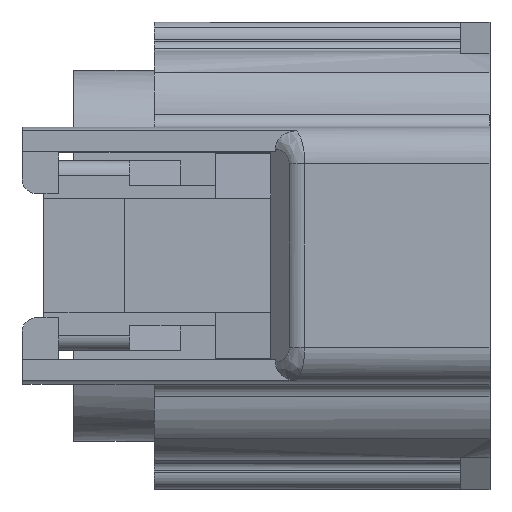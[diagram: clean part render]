
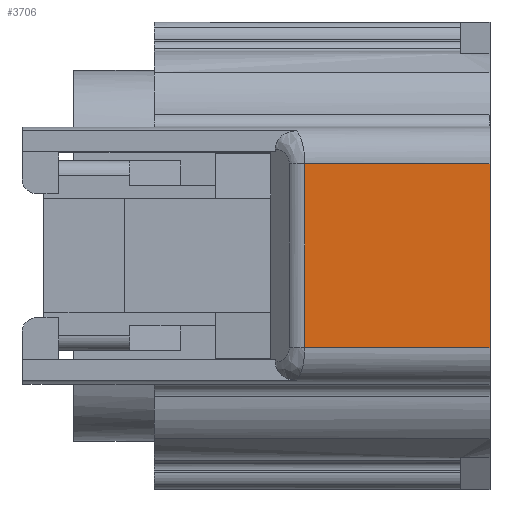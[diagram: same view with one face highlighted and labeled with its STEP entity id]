
A CAD part, top view. The second image highlights one B-rep face of the part: STEP entity #3706.
In plain terms, the highlighted planar face has unit normal (0, 0, 1).
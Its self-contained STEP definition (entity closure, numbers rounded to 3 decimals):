
#2983=CARTESIAN_POINT('Vertex',(1.8,-6.3,15.75)) ;
#2986=CARTESIAN_POINT('Line Origine',(-14.282,-6.3,15.75)) ;
#2990=CARTESIAN_POINT('Vertex',(-10.879,-6.3,15.75)) ;
#3676=CARTESIAN_POINT('Axis2P3D Location',(1.9,-7.56,15.75)) ;
#3681=CARTESIAN_POINT('Line Origine',(1.8,0.,15.75)) ;
#3685=CARTESIAN_POINT('Vertex',(1.8,6.3,15.75)) ;
#3688=CARTESIAN_POINT('Line Origine',(-4.539,6.3,15.75)) ;
#3692=CARTESIAN_POINT('Vertex',(-10.879,6.3,15.75)) ;
#3695=CARTESIAN_POINT('Line Origine',(-10.879,0.,15.75)) ;
#2987=DIRECTION('Vector Direction',(-1.,0.,0.)) ;
#3677=DIRECTION('Axis2P3D Direction',(0.,-0.,1.)) ;
#3678=DIRECTION('Axis2P3D XDirection',(0.,1.,0.)) ;
#3682=DIRECTION('Vector Direction',(0.,-1.,0.)) ;
#3689=DIRECTION('Vector Direction',(-1.,0.,0.)) ;
#3696=DIRECTION('Vector Direction',(0.,1.,0.)) ;
#3679=AXIS2_PLACEMENT_3D('Plane Axis2P3D',#3676,#3677,#3678) ;
#3701=ORIENTED_EDGE('',*,*,#2992,.F.) ;
#3702=ORIENTED_EDGE('',*,*,#3687,.F.) ;
#3703=ORIENTED_EDGE('',*,*,#3694,.T.) ;
#3704=ORIENTED_EDGE('',*,*,#3699,.F.) ;
#2988=VECTOR('Line Direction',#2987,1.) ;
#3683=VECTOR('Line Direction',#3682,1.) ;
#3690=VECTOR('Line Direction',#3689,1.) ;
#3697=VECTOR('Line Direction',#3696,1.) ;
#3706=ADVANCED_FACE('BODY \X2\306E7D50679C\X0\',(#3705),#3680,.T.) ;
#2992=EDGE_CURVE('',#2984,#2991,#2989,.T.) ;
#3687=EDGE_CURVE('',#3686,#2984,#3684,.T.) ;
#3694=EDGE_CURVE('',#3686,#3693,#3691,.T.) ;
#3699=EDGE_CURVE('',#2991,#3693,#3698,.T.) ;
#3700=EDGE_LOOP('',(#3701,#3702,#3703,#3704)) ;
#3705=FACE_OUTER_BOUND('',#3700,.T.) ;
#2989=LINE('Line',#2986,#2988) ;
#3684=LINE('Line',#3681,#3683) ;
#3691=LINE('Line',#3688,#3690) ;
#3698=LINE('Line',#3695,#3697) ;
#3680=PLANE('',#3679) ;
#2984=VERTEX_POINT('',#2983) ;
#2991=VERTEX_POINT('',#2990) ;
#3686=VERTEX_POINT('',#3685) ;
#3693=VERTEX_POINT('',#3692) ;
